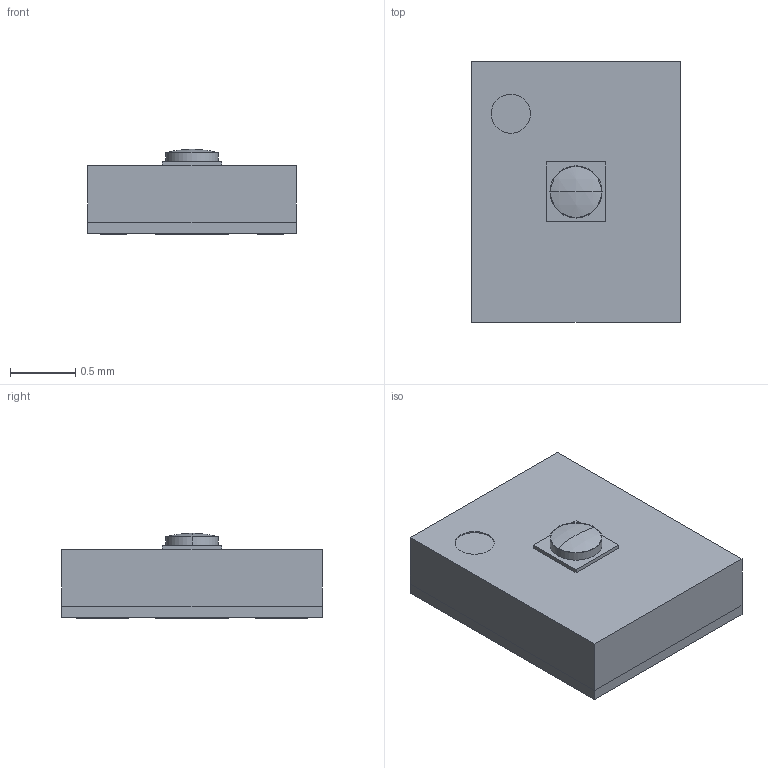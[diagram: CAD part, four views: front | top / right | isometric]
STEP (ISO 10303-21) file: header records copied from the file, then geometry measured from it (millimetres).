
FILE_DESCRIPTION (( 'STEP AP203' ), '1' );
FILE_NAME ('HSFPAR004A_map.STEP', '2018-11-28T05:08:16', ( 'catadm' ), ( 'Hewlett-Packard Company' ), 'SwSTEP 2.0', 'SolidWorks 2017', '' );
FILE_SCHEMA (( 'CONFIG_CONTROL_DESIGN' ));
Length unit declared in the file: millimetre
Products named in the file (2): HSFPAR004A_map; Force_sensor_Knob_兂400um_without mark
Assembly tree (1 placements, depth 2):
  HSFPAR004A_map
    Force_sensor_Knob_兂400um_without mark
Bounding box: 1.6 x 2 x 0.66 mm (x, y, z)
Volume: 1.7 mm3; surface area: 18.5 mm2
Topology: 8 solids, 8 shells, 56 faces, 112 edges, 75 vertices
Faces by surface type: plane 50, cylinder 4, sphere 2
Entity records: 1618 total; most frequent: CARTESIAN_POINT 247, DIRECTION 244, ORIENTED_EDGE 224, EDGE_CURVE 112, VECTOR 100, LINE 100, VERTEX_POINT 75, AXIS2_PLACEMENT_3D 72
